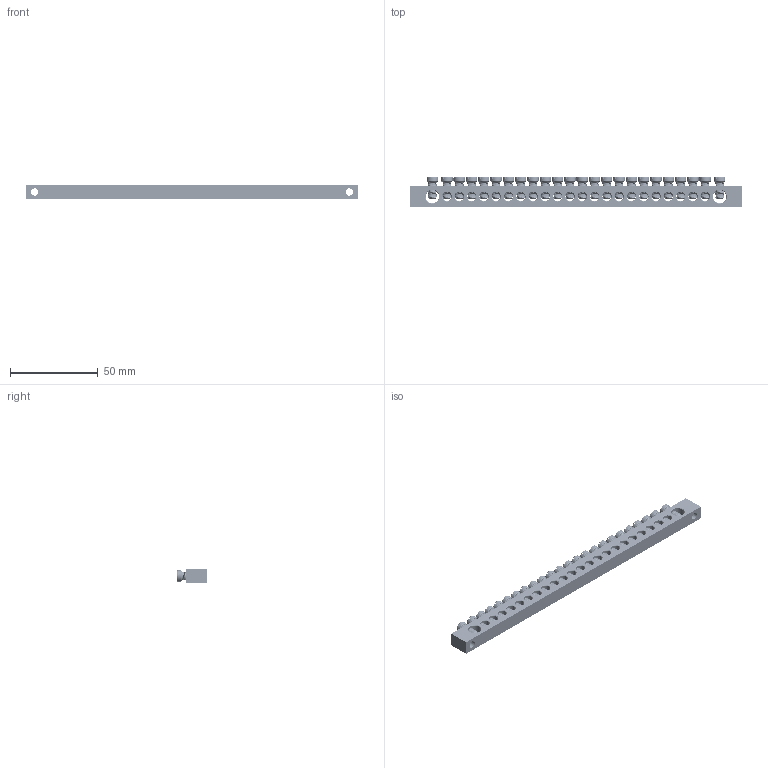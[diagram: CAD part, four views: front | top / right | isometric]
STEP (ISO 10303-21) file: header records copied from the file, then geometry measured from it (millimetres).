
FILE_DESCRIPTION (( 'STEP AP214' ), '1' );
FILE_NAME ('278017 OptiKit BB-PEN-S-24-8õ12-2.STEP', '2020-02-07T06:49:39', ( '' ), ( '' ), 'SwSTEP 2.0', 'SolidWorks 2018', '' );
FILE_SCHEMA (( 'AUTOMOTIVE_DESIGN' ));
Length unit declared in the file: millimetre
Products named in the file (3): Âèíò ì5; Øèíà 8õ12 24 2; 278017 OptiKit BB-PEN-S-24-8õ12-2
Assembly tree (25 placements, depth 2):
  278017 OptiKit BB-PEN-S-24-8õ12-2
    Øèíà 8õ12 24 2
    Âèíò ì5  x24
Bounding box: 189 x 17.3 x 8 mm (x, y, z)
Volume: 18522.8 mm3; surface area: 18472.5 mm2
Topology: 25 solids, 25 shells, 2002 faces, 5544 edges, 3568 vertices
Faces by surface type: cylinder 772, plane 654, cone 336, torus 168, bspline 72
Entity records: 12683 total; most frequent: CARTESIAN_POINT 5039, DIRECTION 1461, ORIENTED_EDGE 1424, EDGE_CURVE 712, AXIS2_PLACEMENT_3D 587, VERTEX_POINT 440, EDGE_LOOP 378, LINE 287
